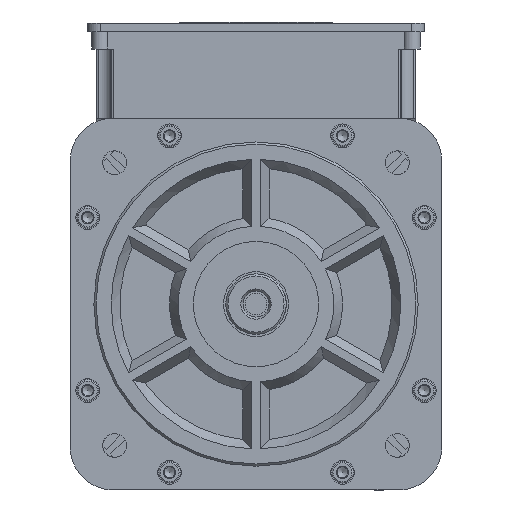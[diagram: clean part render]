
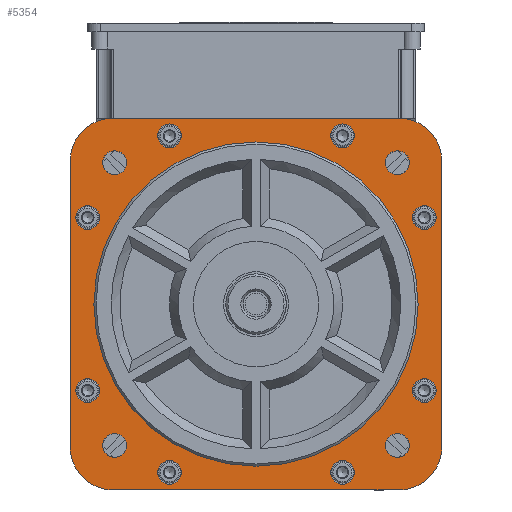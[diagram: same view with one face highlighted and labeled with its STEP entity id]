
A CAD part, front view. The second image highlights one B-rep face of the part: STEP entity #5354.
In plain terms, the highlighted planar face has unit normal (0, -1, 0).
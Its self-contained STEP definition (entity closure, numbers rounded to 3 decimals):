
#3439=FACE_BOUND('',#11114,.T.);
#3440=FACE_BOUND('',#11115,.T.);
#3441=FACE_BOUND('',#11116,.T.);
#3442=FACE_BOUND('',#11117,.T.);
#3443=FACE_BOUND('',#11118,.T.);
#3444=FACE_BOUND('',#11119,.T.);
#3445=FACE_BOUND('',#11120,.T.);
#3446=FACE_BOUND('',#11121,.T.);
#3447=FACE_BOUND('',#11122,.T.);
#3448=FACE_BOUND('',#11123,.T.);
#3449=FACE_BOUND('',#11124,.T.);
#3450=FACE_BOUND('',#11125,.T.);
#3451=FACE_BOUND('',#11126,.T.);
#3452=FACE_BOUND('',#11127,.T.);
#3980=CIRCLE('',#41885,75.);
#4105=CIRCLE('',#42239,5.5);
#4106=CIRCLE('',#42241,5.5);
#4107=CIRCLE('',#42243,5.5);
#4108=CIRCLE('',#42245,5.5);
#4109=CIRCLE('',#42247,5.5);
#4110=CIRCLE('',#42249,5.5);
#4111=CIRCLE('',#42251,5.5);
#4112=CIRCLE('',#42253,5.5);
#4113=CIRCLE('',#42255,5.5);
#4114=CIRCLE('',#42257,5.5);
#4115=CIRCLE('',#42259,5.5);
#4116=CIRCLE('',#42261,5.5);
#4119=CIRCLE('',#42270,20.);
#4120=CIRCLE('',#42272,20.);
#4122=CIRCLE('',#42275,20.);
#4124=CIRCLE('',#42278,20.);
#5354=ADVANCED_FACE('',(#3439,#3440,#3441,#3442,#3443,#3444,#3445,#3446,
#3447,#3448,#3449,#3450,#3451,#3452),#7554,.F.);
#7554=PLANE('',#42284);
#11114=EDGE_LOOP('',(#14835));
#11115=EDGE_LOOP('',(#14836));
#11116=EDGE_LOOP('',(#14837));
#11117=EDGE_LOOP('',(#14838));
#11118=EDGE_LOOP('',(#14839));
#11119=EDGE_LOOP('',(#14840));
#11120=EDGE_LOOP('',(#14841));
#11121=EDGE_LOOP('',(#14842));
#11122=EDGE_LOOP('',(#14843));
#11123=EDGE_LOOP('',(#14844));
#11124=EDGE_LOOP('',(#14845));
#11125=EDGE_LOOP('',(#14846));
#11126=EDGE_LOOP('',(#14847));
#11127=EDGE_LOOP('',(#14848,#14849,#14850,#14851,#14852,#14853,#14854,#14855,
#14856,#14857));
#14835=ORIENTED_EDGE('',*,*,#29826,.F.);
#14836=ORIENTED_EDGE('',*,*,#30455,.T.);
#14837=ORIENTED_EDGE('',*,*,#30456,.T.);
#14838=ORIENTED_EDGE('',*,*,#30457,.T.);
#14839=ORIENTED_EDGE('',*,*,#30458,.T.);
#14840=ORIENTED_EDGE('',*,*,#30459,.T.);
#14841=ORIENTED_EDGE('',*,*,#30460,.F.);
#14842=ORIENTED_EDGE('',*,*,#30461,.T.);
#14843=ORIENTED_EDGE('',*,*,#30462,.T.);
#14844=ORIENTED_EDGE('',*,*,#30463,.T.);
#14845=ORIENTED_EDGE('',*,*,#30464,.F.);
#14846=ORIENTED_EDGE('',*,*,#30465,.F.);
#14847=ORIENTED_EDGE('',*,*,#30466,.T.);
#14848=ORIENTED_EDGE('',*,*,#30516,.T.);
#14849=ORIENTED_EDGE('',*,*,#30538,.T.);
#14850=ORIENTED_EDGE('',*,*,#30500,.F.);
#14851=ORIENTED_EDGE('',*,*,#30499,.F.);
#14852=ORIENTED_EDGE('',*,*,#30536,.T.);
#14853=ORIENTED_EDGE('',*,*,#30484,.F.);
#14854=ORIENTED_EDGE('',*,*,#30535,.T.);
#14855=ORIENTED_EDGE('',*,*,#30532,.T.);
#14856=ORIENTED_EDGE('',*,*,#30531,.T.);
#14857=ORIENTED_EDGE('',*,*,#30540,.T.);
#25716=VERTEX_POINT('',#54469);
#26177=VERTEX_POINT('',#55788);
#26178=VERTEX_POINT('',#55791);
#26179=VERTEX_POINT('',#55794);
#26180=VERTEX_POINT('',#55797);
#26181=VERTEX_POINT('',#55800);
#26182=VERTEX_POINT('',#55803);
#26183=VERTEX_POINT('',#55806);
#26184=VERTEX_POINT('',#55809);
#26185=VERTEX_POINT('',#55812);
#26186=VERTEX_POINT('',#55815);
#26187=VERTEX_POINT('',#55818);
#26188=VERTEX_POINT('',#55821);
#26191=VERTEX_POINT('',#55830);
#26193=VERTEX_POINT('',#55845);
#26194=VERTEX_POINT('',#55849);
#26196=VERTEX_POINT('',#55864);
#26197=VERTEX_POINT('',#55866);
#26198=VERTEX_POINT('',#55870);
#26201=VERTEX_POINT('',#55887);
#26204=VERTEX_POINT('',#55906);
#26205=VERTEX_POINT('',#55908);
#26206=VERTEX_POINT('',#55910);
#29826=EDGE_CURVE('',#25716,#25716,#3980,.T.);
#30455=EDGE_CURVE('',#26177,#26177,#4105,.T.);
#30456=EDGE_CURVE('',#26178,#26178,#4106,.T.);
#30457=EDGE_CURVE('',#26179,#26179,#4107,.T.);
#30458=EDGE_CURVE('',#26180,#26180,#4108,.T.);
#30459=EDGE_CURVE('',#26181,#26181,#4109,.T.);
#30460=EDGE_CURVE('',#26182,#26182,#4110,.T.);
#30461=EDGE_CURVE('',#26183,#26183,#4111,.T.);
#30462=EDGE_CURVE('',#26184,#26184,#4112,.T.);
#30463=EDGE_CURVE('',#26185,#26185,#4113,.T.);
#30464=EDGE_CURVE('',#26186,#26186,#4114,.T.);
#30465=EDGE_CURVE('',#26187,#26187,#4115,.T.);
#30466=EDGE_CURVE('',#26188,#26188,#4116,.T.);
#30484=EDGE_CURVE('',#26193,#26191,#36390,.T.);
#30499=EDGE_CURVE('',#26196,#26197,#36405,.T.);
#30500=EDGE_CURVE('',#26197,#26194,#36406,.T.);
#30516=EDGE_CURVE('',#26198,#26201,#36422,.T.);
#30531=EDGE_CURVE('',#26205,#26204,#36437,.T.);
#30532=EDGE_CURVE('',#26206,#26205,#36438,.T.);
#30535=EDGE_CURVE('',#26193,#26206,#4119,.T.);
#30536=EDGE_CURVE('',#26196,#26191,#4120,.T.);
#30538=EDGE_CURVE('',#26201,#26194,#4122,.T.);
#30540=EDGE_CURVE('',#26204,#26198,#4124,.T.);
#36390=LINE('',#55846,#39303);
#36405=LINE('',#55865,#39318);
#36406=LINE('',#55867,#39319);
#36422=LINE('',#55888,#39335);
#36437=LINE('',#55907,#39350);
#36438=LINE('',#55909,#39351);
#39303=VECTOR('',#46376,1.);
#39318=VECTOR('',#46393,1.);
#39319=VECTOR('',#46394,1.);
#39335=VECTOR('',#46412,1.);
#39350=VECTOR('',#46429,1.);
#39351=VECTOR('',#46430,1.);
#41885=AXIS2_PLACEMENT_3D('',#54468,#45096,#45097);
#42239=AXIS2_PLACEMENT_3D('',#55787,#46308,#46309);
#42241=AXIS2_PLACEMENT_3D('',#55790,#46312,#46313);
#42243=AXIS2_PLACEMENT_3D('',#55793,#46316,#46317);
#42245=AXIS2_PLACEMENT_3D('',#55796,#46320,#46321);
#42247=AXIS2_PLACEMENT_3D('',#55799,#46324,#46325);
#42249=AXIS2_PLACEMENT_3D('',#55802,#46328,#46329);
#42251=AXIS2_PLACEMENT_3D('',#55805,#46332,#46333);
#42253=AXIS2_PLACEMENT_3D('',#55808,#46336,#46337);
#42255=AXIS2_PLACEMENT_3D('',#55811,#46340,#46341);
#42257=AXIS2_PLACEMENT_3D('',#55814,#46344,#46345);
#42259=AXIS2_PLACEMENT_3D('',#55817,#46348,#46349);
#42261=AXIS2_PLACEMENT_3D('',#55820,#46352,#46353);
#42270=AXIS2_PLACEMENT_3D('',#55914,#46436,#46437);
#42272=AXIS2_PLACEMENT_3D('',#55916,#46440,#46441);
#42275=AXIS2_PLACEMENT_3D('',#55919,#46446,#46447);
#42278=AXIS2_PLACEMENT_3D('',#55922,#46452,#46453);
#42284=AXIS2_PLACEMENT_3D('',#55928,#46464,#46465);
#45096=DIRECTION('',(0.,-1.,0.));
#45097=DIRECTION('',(0.,0.,-1.));
#46308=DIRECTION('',(0.,1.,0.));
#46309=DIRECTION('',(0.707,0.,-0.707));
#46312=DIRECTION('',(0.,1.,0.));
#46313=DIRECTION('',(0.707,0.,0.707));
#46316=DIRECTION('',(0.,1.,0.));
#46317=DIRECTION('',(-0.707,0.,-0.707));
#46320=DIRECTION('',(0.,1.,0.));
#46321=DIRECTION('',(-0.707,0.,0.707));
#46324=DIRECTION('',(0.,1.,0.));
#46325=DIRECTION('',(0.,0.,-1.));
#46328=DIRECTION('',(0.,-1.,0.));
#46329=DIRECTION('',(0.,0.,-1.));
#46332=DIRECTION('',(0.,1.,0.));
#46333=DIRECTION('',(0.,0.,-1.));
#46336=DIRECTION('',(0.,1.,0.));
#46337=DIRECTION('',(0.,0.,-1.));
#46340=DIRECTION('',(0.,1.,0.));
#46341=DIRECTION('',(0.,0.,-1.));
#46344=DIRECTION('',(0.,-1.,0.));
#46345=DIRECTION('',(0.,0.,-1.));
#46348=DIRECTION('',(0.,-1.,0.));
#46349=DIRECTION('',(0.,0.,-1.));
#46352=DIRECTION('',(0.,1.,0.));
#46353=DIRECTION('',(0.,0.,-1.));
#46376=DIRECTION('',(0.,0.,-1.));
#46393=DIRECTION('',(-1.,0.,0.));
#46394=DIRECTION('',(-1.,0.,0.));
#46412=DIRECTION('',(0.,0.,-1.));
#46429=DIRECTION('',(-1.,0.,0.));
#46430=DIRECTION('',(-1.,0.,0.));
#46436=DIRECTION('',(0.,-1.,0.));
#46437=DIRECTION('',(0.,0.,-1.));
#46440=DIRECTION('',(0.,-1.,0.));
#46441=DIRECTION('',(0.,0.,-1.));
#46446=DIRECTION('',(0.,-1.,0.));
#46447=DIRECTION('',(0.,0.,-1.));
#46452=DIRECTION('',(0.,-1.,0.));
#46453=DIRECTION('',(0.,0.,-1.));
#46464=DIRECTION('',(0.,1.,0.));
#46465=DIRECTION('',(0.,0.,-1.));
#54468=CARTESIAN_POINT('',(-13.291,58.45,90.));
#54469=CARTESIAN_POINT('',(-13.291,58.45,15.));
#55787=CARTESIAN_POINT('',(-78.698,58.45,155.407));
#55788=CARTESIAN_POINT('',(-74.809,58.45,151.518));
#55790=CARTESIAN_POINT('',(-78.698,58.45,24.593));
#55791=CARTESIAN_POINT('',(-74.809,58.45,28.482));
#55793=CARTESIAN_POINT('',(52.117,58.45,155.407));
#55794=CARTESIAN_POINT('',(48.228,58.45,151.518));
#55796=CARTESIAN_POINT('',(52.117,58.45,24.593));
#55797=CARTESIAN_POINT('',(48.228,58.45,28.482));
#55799=CARTESIAN_POINT('',(-91.112,58.45,130.));
#55800=CARTESIAN_POINT('',(-91.112,58.45,124.5));
#55802=CARTESIAN_POINT('',(-91.112,58.45,50.));
#55803=CARTESIAN_POINT('',(-91.112,58.45,44.5));
#55805=CARTESIAN_POINT('',(-53.291,58.45,167.822));
#55806=CARTESIAN_POINT('',(-53.291,58.45,162.322));
#55808=CARTESIAN_POINT('',(-53.291,58.45,12.178));
#55809=CARTESIAN_POINT('',(-53.291,58.45,6.678));
#55811=CARTESIAN_POINT('',(26.709,58.45,167.822));
#55812=CARTESIAN_POINT('',(26.709,58.45,162.322));
#55814=CARTESIAN_POINT('',(26.709,58.45,12.178));
#55815=CARTESIAN_POINT('',(26.709,58.45,6.678));
#55817=CARTESIAN_POINT('',(64.531,58.45,130.));
#55818=CARTESIAN_POINT('',(64.531,58.45,124.5));
#55820=CARTESIAN_POINT('',(64.531,58.45,50.));
#55821=CARTESIAN_POINT('',(64.531,58.45,44.5));
#55830=CARTESIAN_POINT('',(72.709,58.45,24.));
#55845=CARTESIAN_POINT('',(72.709,58.45,156.));
#55846=CARTESIAN_POINT('',(72.709,58.45,90.));
#55849=CARTESIAN_POINT('',(-79.291,58.45,4.));
#55864=CARTESIAN_POINT('',(52.709,58.45,4.));
#55865=CARTESIAN_POINT('',(-13.141,58.45,4.));
#55866=CARTESIAN_POINT('',(51.496,58.45,4.));
#55867=CARTESIAN_POINT('',(-13.141,58.45,4.));
#55870=CARTESIAN_POINT('',(-99.291,58.45,156.));
#55887=CARTESIAN_POINT('',(-99.291,58.45,24.));
#55888=CARTESIAN_POINT('',(-99.291,58.45,89.85));
#55906=CARTESIAN_POINT('',(-79.291,58.45,176.));
#55907=CARTESIAN_POINT('',(-13.441,58.45,176.));
#55908=CARTESIAN_POINT('',(-72.291,58.45,176.));
#55909=CARTESIAN_POINT('',(-13.441,58.45,176.));
#55910=CARTESIAN_POINT('',(52.709,58.45,176.));
#55914=CARTESIAN_POINT('',(52.709,58.45,156.));
#55916=CARTESIAN_POINT('',(52.709,58.45,24.));
#55919=CARTESIAN_POINT('',(-79.291,58.45,24.));
#55922=CARTESIAN_POINT('',(-79.291,58.45,156.));
#55928=CARTESIAN_POINT('',(-13.291,58.45,90.));
